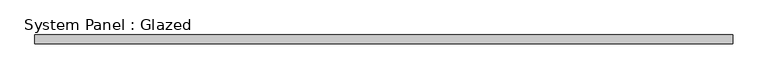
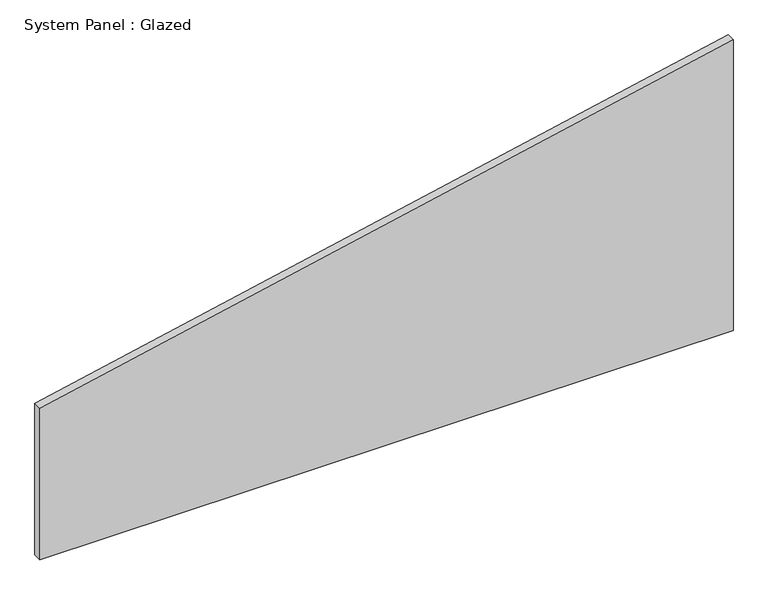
"""IFC4 building model written with IfcOpenShell, lengths in millimetres: plate geometry, System Panel : Glazed."""

import ifcopenshell
import ifcopenshell.guid

model = None  # the IFC model being written
_history = None  # IfcOwnerHistory: only IFC2X3 demands one
_inside = {}  # id of a spatial element -> (the spatial element, [elements in it])
_under = {}  # id of a project, library or spatial element -> (it, [spatial elements below it])
_declared = {}  # id of a project -> (the project, [libraries it declares])
_typed = {}  # id of a type object -> (the type object, [elements of that type])
_made_of = {}  # id of a material, layer set ... -> (it, [elements and type objects made of it])


def new_model(schema):
    """Start an empty IFC model of exactly this schema.

    Asked for "IFC4X3", IfcOpenShell would pick the latest addendum, in which some entities
    have other attributes; the version numbers below select the first issue.
    IFC2X3 requires an IfcOwnerHistory on every rooted entity: one is made here for all.
    """
    global model, _history
    if schema == "IFC4X3":
        model = ifcopenshell.file(schema_version=(4, 3, 0, 0))
    else:
        model = ifcopenshell.file(schema=schema)
    _inside.clear()
    _under.clear()
    _declared.clear()
    _typed.clear()
    _made_of.clear()
    _history = None
    if model.schema == "IFC2X3":
        org = make("IfcOrganization", Name="unknown")
        user = make(
            "IfcPersonAndOrganization",
            ThePerson=make("IfcPerson", FamilyName="unknown"),
            TheOrganization=org,
        )
        app = make(
            "IfcApplication",
            ApplicationDeveloper=org,
            Version="unknown",
            ApplicationFullName="unknown",
            ApplicationIdentifier="unknown",
        )
        _history = make(
            "IfcOwnerHistory",
            OwningUser=user,
            OwningApplication=app,
            ChangeAction="ADDED",
            CreationDate=0,
        )
    return model


def make(cls, **values):
    """One entity of the class cls with the attributes given. An attribute that is None is left unset."""
    return model.create_entity(
        cls, **{name: value for name, value in values.items() if value is not None}
    )


def rooted(cls, **values):
    """An entity with a GlobalId (a new one), such as an element, a storey or a relation."""
    return make(cls, GlobalId=ifcopenshell.guid.new(), OwnerHistory=_history, **values)


def si_unit(unit_type, name, prefix=None):
    """IfcSIUnit, for example si_unit("LENGTHUNIT", "METRE", prefix="MILLI")."""
    return make("IfcSIUnit", UnitType=unit_type, Prefix=prefix, Name=name)


def assignment(units):
    """IfcUnitAssignment: the units of a project."""
    return None if units is None else make("IfcUnitAssignment", Units=units)


def point(xyz):
    """IfcCartesianPoint."""
    return None if xyz is None else make("IfcCartesianPoint", Coordinates=xyz)


def direction(xyz):
    """IfcDirection."""
    return None if xyz is None else make("IfcDirection", DirectionRatios=xyz)


def frame(location, z_axis=None, x_axis=None):
    """IfcAxis2Placement3D, a coordinate frame: its origin and axes. An axis left out is left unset."""
    return make(
        "IfcAxis2Placement3D",
        Location=point(location),
        Axis=direction(z_axis),
        RefDirection=direction(x_axis),
    )


def origin():
    """The frame at (0, 0, 0) with its axes left unset."""
    return frame((0.0, 0.0, 0.0))


def place(relative_to, where):
    """IfcLocalPlacement: puts the frame where relative to a parent placement (None: the world)."""
    return make(
        "IfcLocalPlacement", PlacementRelTo=relative_to, RelativePlacement=where
    )


def context(
    kind, dimensions, precision=None, world=None, true_north=None, identifier=None
):
    """IfcGeometricRepresentationContext, for example the 3D "Model" context."""
    return make(
        "IfcGeometricRepresentationContext",
        ContextIdentifier=identifier,
        ContextType=kind,
        CoordinateSpaceDimension=dimensions,
        Precision=precision,
        WorldCoordinateSystem=world,
        TrueNorth=true_north,
    )


def project(units=None, contexts=None):
    """IfcProject with its units and contexts."""
    return rooted(
        "IfcProject",
        Name="project",
        RepresentationContexts=contexts,
        UnitsInContext=assignment(units),
    )


def spatial(cls, under=None, at=None, **own):
    """A site, building, storey or space (cls), placed at a placement, below another one or the project."""
    s = rooted(cls, ObjectPlacement=at, **own)
    if under is not None:
        _under.setdefault(under.id(), (under, []))[1].append(s)
    return s


def polyline(points):
    """IfcPolyline through the points."""
    return make("IfcPolyline", Points=[point(p) for p in points])


def outline(outer, holes=None, kind="AREA"):
    """IfcArbitraryClosedProfileDef: a profile drawn as a closed curve; with holes, ...WithVoids."""
    if holes is None:
        return make("IfcArbitraryClosedProfileDef", ProfileType=kind, OuterCurve=outer)
    return make(
        "IfcArbitraryProfileDefWithVoids",
        ProfileType=kind,
        OuterCurve=outer,
        InnerCurves=holes,
    )


def extrude(swept, where, along, depth):
    """IfcExtrudedAreaSolid: the profile swept, set in the frame where, extruded along a direction by depth."""
    return make(
        "IfcExtrudedAreaSolid",
        SweptArea=swept,
        Position=where,
        ExtrudedDirection=direction(along),
        Depth=depth,
    )


def shape(context_of_items, identifier, shape_type, items):
    """IfcShapeRepresentation: the items that make up one representation, for example the "Body"."""
    return make(
        "IfcShapeRepresentation",
        ContextOfItems=context_of_items,
        RepresentationIdentifier=identifier,
        RepresentationType=shape_type,
        Items=items,
    )


def source(mapping_origin, context_of_items, identifier, shape_type, items):
    """IfcRepresentationMap: a shape defined once, which mapped items show again and again."""
    return make(
        "IfcRepresentationMap",
        MappingOrigin=mapping_origin,
        MappedRepresentation=shape(context_of_items, identifier, shape_type, items),
    )


def transform(
    local_origin,
    x_axis=None,
    y_axis=None,
    z_axis=None,
    scale=None,
    scale2=None,
    scale3=None,
    uniform=True,
):
    """IfcCartesianTransformationOperator3D, or its non-uniform kind. x_axis, y_axis, z_axis: its Axis1, 2, 3."""
    if uniform:
        return make(
            "IfcCartesianTransformationOperator3D",
            Axis1=direction(x_axis),
            Axis2=direction(y_axis),
            LocalOrigin=point(local_origin),
            Scale=scale,
            Axis3=direction(z_axis),
        )
    return make(
        "IfcCartesianTransformationOperator3DnonUniform",
        Axis1=direction(x_axis),
        Axis2=direction(y_axis),
        LocalOrigin=point(local_origin),
        Scale=scale,
        Axis3=direction(z_axis),
        Scale2=scale2,
        Scale3=scale3,
    )


def mapped(mapping_source, mapping_target):
    """IfcMappedItem: shows the shape of a source again, moved by a transform."""
    return make(
        "IfcMappedItem", MappingSource=mapping_source, MappingTarget=mapping_target
    )


def made_of(thing, what):
    """Note that an element or type object is made of a material, layer set ...; save() writes the relation."""
    if what is not None:
        _made_of.setdefault(what.id(), (what, []))[1].append(thing)
    return thing


def element(
    cls,
    number,
    at=None,
    inside=None,
    cuts=None,
    type_object=None,
    material=None,
    context=None,
    identifier="Body",
    shape_type=None,
    held_by="IfcProductDefinitionShape",
    body=None,
    shapes=None,
    **own,
):
    """One element of the class cls, such as IfcWall. Its Tag is "e" and its number.

    at: its placement. inside: the storey or other place that contains it. cuts: it is an
    opening in that element (IfcRelVoidsElement). A single representation is given by context,
    identifier, shape_type and body (its items); several are given by shapes. held_by: the class
    of the entity that holds the representations. save() writes the other relations.
    """
    e = rooted(cls, Tag="e%d" % number, ObjectPlacement=at, **own)
    if body is not None:
        shapes = [shape(context, identifier, shape_type, body)]
    if shapes is not None:
        e.Representation = make(held_by, Representations=shapes)
    if inside is not None:
        _inside.setdefault(inside.id(), (inside, []))[1].append(e)
    if cuts is not None:
        rooted(
            "IfcRelVoidsElement", RelatingBuildingElement=cuts, RelatedOpeningElement=e
        )
    if type_object is not None:
        _typed.setdefault(type_object.id(), (type_object, []))[1].append(e)
    return made_of(e, material)


def aggregate(whole, parts):
    """IfcRelAggregates: a whole, such as a stair, and the parts it consists of."""
    return rooted("IfcRelAggregates", RelatingObject=whole, RelatedObjects=parts)


def save(model, path):
    """Write the relations noted so far, then the file.

    IfcRelAggregates (storeys below a building ...), IfcRelContainedInSpatialStructure (elements
    in a storey), IfcRelDefinesByType, IfcRelAssociatesMaterial and IfcRelDeclares: one each for
    every whole, place, type object, material and project.
    """
    for whole, parts in _under.values():
        aggregate(whole, parts)
    for where, things in _inside.values():
        rooted(
            "IfcRelContainedInSpatialStructure",
            RelatedElements=things,
            RelatingStructure=where,
        )
    for kind, things in _typed.values():
        rooted("IfcRelDefinesByType", RelatedObjects=things, RelatingType=kind)
    for what, things in _made_of.values():
        rooted("IfcRelAssociatesMaterial", RelatedObjects=things, RelatingMaterial=what)
    for by, libraries in _declared.values():
        rooted("IfcRelDeclares", RelatingContext=by, RelatedDefinitions=libraries)
    model.write(path)


def system_panel_glazed_57ddb692(model_context):
    return source(origin(), model_context, "Body", "SweptSolid", [
        extrude(outline(polyline([(0.0, -1000.0), (0.0, 1000.0), (887.423645, 1000.0), (462.3105216, -1000.0), (0.0, -1000.0)])), frame((0.0, 24.5, 0.0), z_axis=(0.0, 1.0, 0.0), x_axis=(0.0, 0.0, 1.0)), (0.0, 0.0, 1.0), 25.0),
    ])


if __name__ == "__main__":
    model = new_model("IFC4")
    model_context = context("Model", 3, world=origin())
    ifc_project = project(units=[si_unit("LENGTHUNIT", "METRE", prefix="MILLI")], contexts=[model_context])
    site = spatial("IfcSite", under=ifc_project)
    building = spatial("IfcBuilding", under=site)
    placement = place(None, origin())
    system_panel_glazed_shape = system_panel_glazed_57ddb692(model_context)
    element("IfcPlate", 1, ObjectType="System Panel : Glazed", at=placement, inside=building, context=model_context, shape_type="MappedRepresentation", body=[
        mapped(system_panel_glazed_shape, transform((0.0, 0.0, 0.0), x_axis=(1.0, 0.0, 0.0), y_axis=(0.0, 1.0, 0.0), z_axis=(0.0, 0.0, 1.0))),
    ])
    save(model, "model.ifc")
